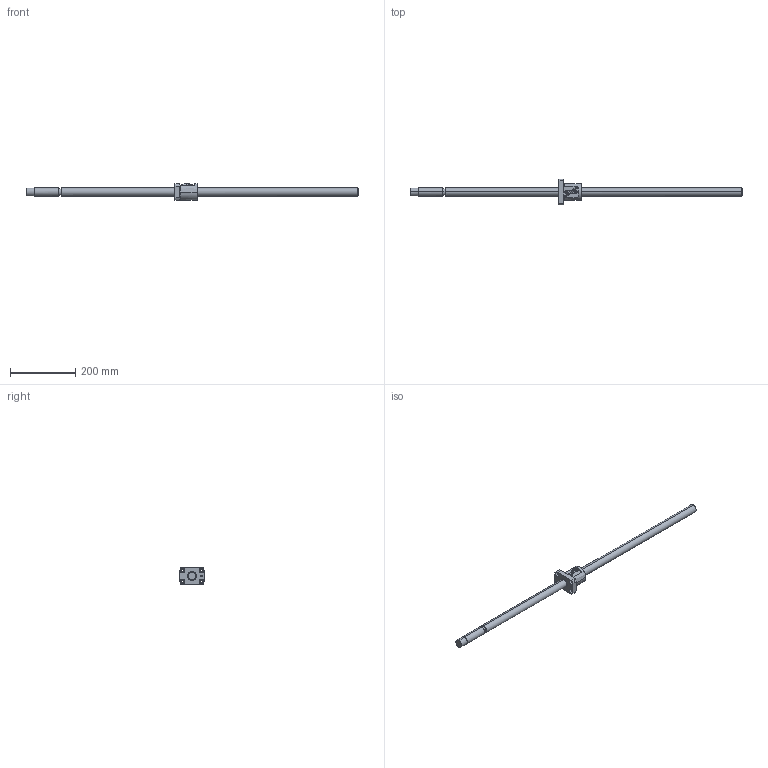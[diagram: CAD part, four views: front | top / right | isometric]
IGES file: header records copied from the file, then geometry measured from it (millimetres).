
Global section: file name: No Iges File Name specified; native system: AutoDesk Inventor R10; preprocessor: AutoDesk Inventor Iges Exporter R10; author: No Author specified; organization: No Organization specified; date: 20101224.141956; units: millimetre
Bounding box: 1020 x 78 x 52 mm (x, y, z)
Surface area: 109426.1 mm2 (no closed solid volume)
Topology: 0 solids, 0 shells, 136 faces, 966 edges, 964 vertices
Faces by surface type: bspline 136
